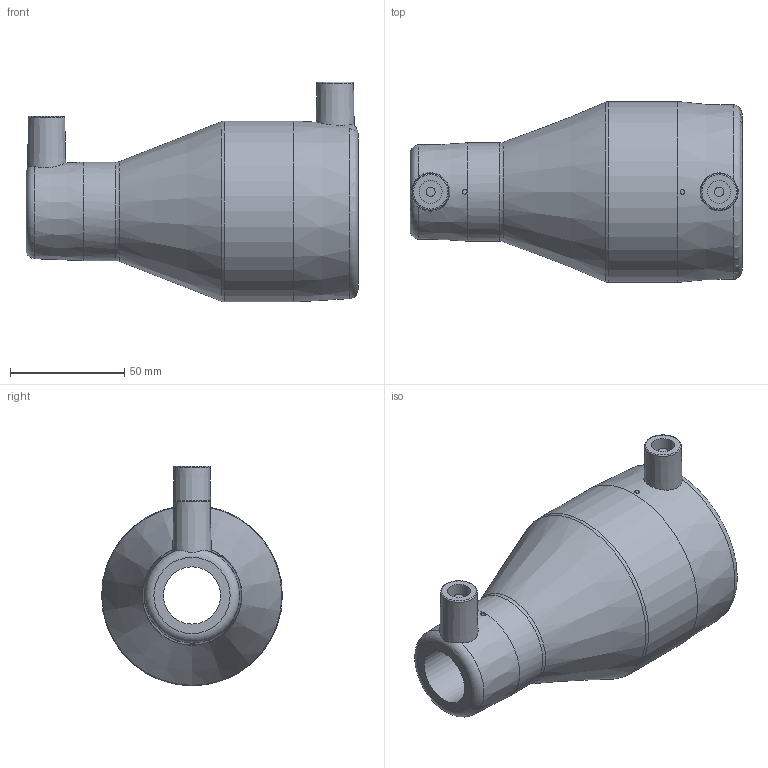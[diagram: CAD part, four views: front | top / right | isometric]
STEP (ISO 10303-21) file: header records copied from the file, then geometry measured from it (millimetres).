
FILE_DESCRIPTION(/* description */ ('Unknown'),/* implementation_level */ '2;1');
FILE_NAME(/* name */ 'REP063025C',/* time_stamp */ '2021-05-25T17:39:35+02:00',/* author */ ('Unknown'),/* organization */ ('Unknown'),/* preprocessor_version */ 'ST-DEVELOPER v16.7',/* originating_system */ 'Solid Edge',/* authorisation */ 'Unknown');
FILE_SCHEMA (('AUTOMOTIVE_DESIGN {1 0 10303 214 3 1 1}'));
Length unit declared in the file: millimetre
Products named in the file (1): REP063025C
Bounding box: 145 x 79 x 96 mm (x, y, z)
Volume: 208457.9 mm3; surface area: 55729.7 mm2
Topology: 1 solids, 1 shells, 32 faces, 70 edges, 44 vertices
Faces by surface type: cylinder 10, plane 10, cone 6, torus 6
Full cylindrical faces by diameter (mm): 2 x2, 4 x2, 10 x2, 25 x1, 43 x1, 63 x1, 79 x1
Entity records: 723 total; most frequent: CARTESIAN_POINT 153, DIRECTION 122, ORIENTED_EDGE 68, EDGE_LOOP 61, FACE_BOUND 61, AXIS2_PLACEMENT_3D 61, EDGE_CURVE 34, ADVANCED_FACE 32
